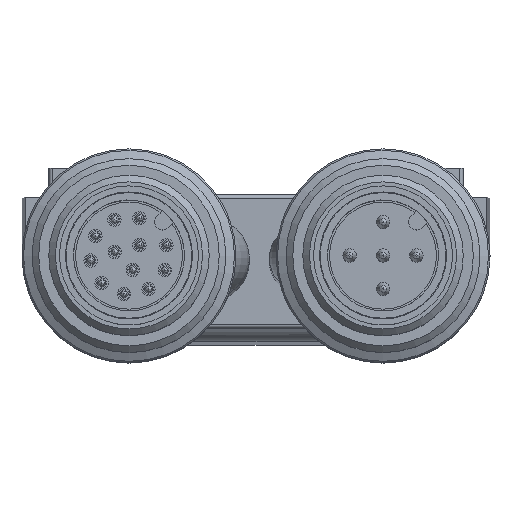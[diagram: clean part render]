
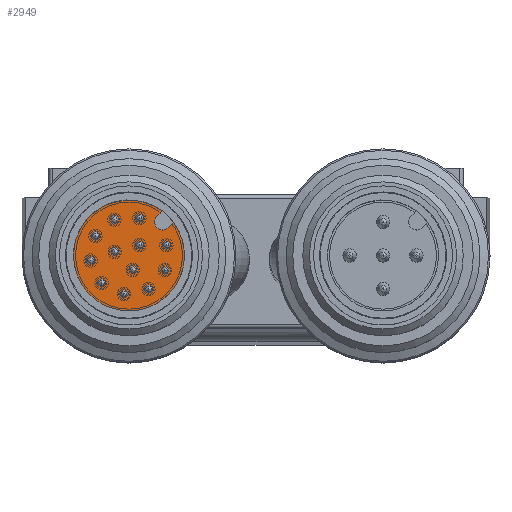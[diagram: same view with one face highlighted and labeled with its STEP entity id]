
A CAD part, top view. The second image highlights one B-rep face of the part: STEP entity #2949.
In plain terms, the highlighted planar face has unit normal (0, 0, 1) as drawn and (0, 0, -1) by its records, which use the part's own axes.
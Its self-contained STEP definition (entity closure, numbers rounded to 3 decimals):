
#2949=ADVANCED_FACE('',(#4052,#4053,#4054,#4055,#4056,#4057,#4058,#4059,
#4060,#4061,#4062,#4063,#4064),#3707,.T.);
#3707=PLANE('',#18240);
#4052=FACE_BOUND('',#5407,.T.);
#4053=FACE_BOUND('',#5408,.T.);
#4054=FACE_BOUND('',#5409,.T.);
#4055=FACE_BOUND('',#5410,.T.);
#4056=FACE_BOUND('',#5411,.T.);
#4057=FACE_BOUND('',#5412,.T.);
#4058=FACE_BOUND('',#5413,.T.);
#4059=FACE_BOUND('',#5414,.T.);
#4060=FACE_BOUND('',#5415,.T.);
#4061=FACE_BOUND('',#5416,.T.);
#4062=FACE_BOUND('',#5417,.T.);
#4063=FACE_BOUND('',#5418,.T.);
#4064=FACE_BOUND('',#5419,.T.);
#5407=EDGE_LOOP('',(#10220));
#5408=EDGE_LOOP('',(#10221));
#5409=EDGE_LOOP('',(#10222));
#5410=EDGE_LOOP('',(#10223));
#5411=EDGE_LOOP('',(#10224));
#5412=EDGE_LOOP('',(#10225));
#5413=EDGE_LOOP('',(#10226));
#5414=EDGE_LOOP('',(#10227));
#5415=EDGE_LOOP('',(#10228));
#5416=EDGE_LOOP('',(#10229));
#5417=EDGE_LOOP('',(#10230));
#5418=EDGE_LOOP('',(#10231));
#5419=EDGE_LOOP('',(#10232,#10233,#10234,#10235));
#6067=CIRCLE('',#18220,0.6);
#6070=CIRCLE('',#18227,0.3);
#6071=CIRCLE('',#18228,0.3);
#6072=CIRCLE('',#18229,0.3);
#6073=CIRCLE('',#18230,0.3);
#6074=CIRCLE('',#18231,0.3);
#6075=CIRCLE('',#18232,0.3);
#6076=CIRCLE('',#18233,0.3);
#6077=CIRCLE('',#18234,0.3);
#6078=CIRCLE('',#18235,0.3);
#6079=CIRCLE('',#18236,0.3);
#6080=CIRCLE('',#18237,0.3);
#6081=CIRCLE('',#18238,0.3);
#6082=CIRCLE('',#18239,4.15);
#10220=ORIENTED_EDGE('',*,*,#14049,.F.);
#10221=ORIENTED_EDGE('',*,*,#14050,.F.);
#10222=ORIENTED_EDGE('',*,*,#14051,.F.);
#10223=ORIENTED_EDGE('',*,*,#14052,.F.);
#10224=ORIENTED_EDGE('',*,*,#14053,.F.);
#10225=ORIENTED_EDGE('',*,*,#14054,.F.);
#10226=ORIENTED_EDGE('',*,*,#14055,.F.);
#10227=ORIENTED_EDGE('',*,*,#14056,.F.);
#10228=ORIENTED_EDGE('',*,*,#14057,.F.);
#10229=ORIENTED_EDGE('',*,*,#14058,.F.);
#10230=ORIENTED_EDGE('',*,*,#14059,.F.);
#10231=ORIENTED_EDGE('',*,*,#14060,.F.);
#10232=ORIENTED_EDGE('',*,*,#14038,.T.);
#10233=ORIENTED_EDGE('',*,*,#14047,.T.);
#10234=ORIENTED_EDGE('',*,*,#14061,.T.);
#10235=ORIENTED_EDGE('',*,*,#14042,.T.);
#11932=VERTEX_POINT('',#28532);
#11933=VERTEX_POINT('',#28533);
#11936=VERTEX_POINT('',#28541);
#11939=VERTEX_POINT('',#28551);
#11940=VERTEX_POINT('',#28555);
#11941=VERTEX_POINT('',#28557);
#11942=VERTEX_POINT('',#28559);
#11943=VERTEX_POINT('',#28561);
#11944=VERTEX_POINT('',#28563);
#11945=VERTEX_POINT('',#28565);
#11946=VERTEX_POINT('',#28567);
#11947=VERTEX_POINT('',#28569);
#11948=VERTEX_POINT('',#28571);
#11949=VERTEX_POINT('',#28573);
#11950=VERTEX_POINT('',#28575);
#11951=VERTEX_POINT('',#28577);
#14038=EDGE_CURVE('',#11932,#11933,#6067,.T.);
#14042=EDGE_CURVE('',#11936,#11932,#15655,.T.);
#14047=EDGE_CURVE('',#11933,#11939,#15659,.T.);
#14049=EDGE_CURVE('',#11940,#11940,#6070,.T.);
#14050=EDGE_CURVE('',#11941,#11941,#6071,.T.);
#14051=EDGE_CURVE('',#11942,#11942,#6072,.T.);
#14052=EDGE_CURVE('',#11943,#11943,#6073,.T.);
#14053=EDGE_CURVE('',#11944,#11944,#6074,.T.);
#14054=EDGE_CURVE('',#11945,#11945,#6075,.T.);
#14055=EDGE_CURVE('',#11946,#11946,#6076,.T.);
#14056=EDGE_CURVE('',#11947,#11947,#6077,.T.);
#14057=EDGE_CURVE('',#11948,#11948,#6078,.T.);
#14058=EDGE_CURVE('',#11949,#11949,#6079,.T.);
#14059=EDGE_CURVE('',#11950,#11950,#6080,.T.);
#14060=EDGE_CURVE('',#11951,#11951,#6081,.T.);
#14061=EDGE_CURVE('',#11939,#11936,#6082,.T.);
#15655=LINE('',#28540,#17055);
#15659=LINE('',#28550,#17059);
#17055=VECTOR('',#22338,1.);
#17059=VECTOR('',#22348,1.);
#18220=AXIS2_PLACEMENT_3D('',#28531,#22330,#22331);
#18227=AXIS2_PLACEMENT_3D('',#28554,#22352,#22353);
#18228=AXIS2_PLACEMENT_3D('',#28556,#22354,#22355);
#18229=AXIS2_PLACEMENT_3D('',#28558,#22356,#22357);
#18230=AXIS2_PLACEMENT_3D('',#28560,#22358,#22359);
#18231=AXIS2_PLACEMENT_3D('',#28562,#22360,#22361);
#18232=AXIS2_PLACEMENT_3D('',#28564,#22362,#22363);
#18233=AXIS2_PLACEMENT_3D('',#28566,#22364,#22365);
#18234=AXIS2_PLACEMENT_3D('',#28568,#22366,#22367);
#18235=AXIS2_PLACEMENT_3D('',#28570,#22368,#22369);
#18236=AXIS2_PLACEMENT_3D('',#28572,#22370,#22371);
#18237=AXIS2_PLACEMENT_3D('',#28574,#22372,#22373);
#18238=AXIS2_PLACEMENT_3D('',#28576,#22374,#22375);
#18239=AXIS2_PLACEMENT_3D('',#28578,#22376,#22377);
#18240=AXIS2_PLACEMENT_3D('',#28579,#22378,#22379);
#22330=DIRECTION('',(0.,0.,1.));
#22331=DIRECTION('',(1.,0.,0.));
#22338=DIRECTION('',(-0.707,0.707,0.));
#22348=DIRECTION('',(0.707,-0.707,0.));
#22352=DIRECTION('',(0.,0.,-1.));
#22353=DIRECTION('',(0.707,-0.707,0.));
#22354=DIRECTION('',(0.,0.,-1.));
#22355=DIRECTION('',(0.707,-0.707,0.));
#22356=DIRECTION('',(0.,0.,-1.));
#22357=DIRECTION('',(0.707,-0.707,0.));
#22358=DIRECTION('',(0.,0.,-1.));
#22359=DIRECTION('',(0.707,-0.707,0.));
#22360=DIRECTION('',(0.,0.,-1.));
#22361=DIRECTION('',(0.707,-0.707,0.));
#22362=DIRECTION('',(0.,0.,-1.));
#22363=DIRECTION('',(0.707,-0.707,0.));
#22364=DIRECTION('',(0.,0.,-1.));
#22365=DIRECTION('',(0.707,-0.707,0.));
#22366=DIRECTION('',(0.,0.,-1.));
#22367=DIRECTION('',(0.707,-0.707,0.));
#22368=DIRECTION('',(0.,0.,-1.));
#22369=DIRECTION('',(0.707,-0.707,0.));
#22370=DIRECTION('',(0.,0.,-1.));
#22371=DIRECTION('',(0.707,-0.707,0.));
#22372=DIRECTION('',(0.,0.,-1.));
#22373=DIRECTION('',(0.707,-0.707,0.));
#22374=DIRECTION('',(0.,0.,-1.));
#22375=DIRECTION('',(0.707,-0.707,0.));
#22376=DIRECTION('',(0.,0.,-1.));
#22377=DIRECTION('',(1.,0.,0.));
#22378=DIRECTION('',(0.,0.,-1.));
#22379=DIRECTION('',(-1.,0.,0.));
#28531=CARTESIAN_POINT('',(42.947,-31.141,8.));
#28532=CARTESIAN_POINT('',(43.371,-30.717,8.));
#28533=CARTESIAN_POINT('',(42.523,-31.565,8.));
#28540=CARTESIAN_POINT('',(43.765,-31.11,8.));
#28541=CARTESIAN_POINT('',(43.765,-31.11,8.));
#28550=CARTESIAN_POINT('',(42.523,-31.565,8.));
#28551=CARTESIAN_POINT('',(42.916,-31.959,8.));
#28554=CARTESIAN_POINT('',(37.932,-30.092,8.));
#28555=CARTESIAN_POINT('',(38.144,-30.304,8.));
#28556=CARTESIAN_POINT('',(39.374,-28.916,8.));
#28557=CARTESIAN_POINT('',(39.587,-29.128,8.));
#28558=CARTESIAN_POINT('',(37.561,-28.259,8.));
#28559=CARTESIAN_POINT('',(37.773,-28.471,8.));
#28560=CARTESIAN_POINT('',(39.345,-31.317,8.));
#28561=CARTESIAN_POINT('',(39.557,-31.53,8.));
#28562=CARTESIAN_POINT('',(41.212,-31.425,8.));
#28563=CARTESIAN_POINT('',(41.424,-31.638,8.));
#28564=CARTESIAN_POINT('',(41.215,-29.409,8.));
#28565=CARTESIAN_POINT('',(41.427,-29.621,8.));
#28566=CARTESIAN_POINT('',(43.231,-29.406,8.));
#28567=CARTESIAN_POINT('',(43.444,-29.618,8.));
#28568=CARTESIAN_POINT('',(40.722,-27.568,8.));
#28569=CARTESIAN_POINT('',(40.934,-27.781,8.));
#28570=CARTESIAN_POINT('',(43.123,-27.539,8.));
#28571=CARTESIAN_POINT('',(43.336,-27.751,8.));
#28572=CARTESIAN_POINT('',(38.386,-26.58,8.));
#28573=CARTESIAN_POINT('',(38.598,-26.792,8.));
#28574=CARTESIAN_POINT('',(40.065,-25.755,8.));
#28575=CARTESIAN_POINT('',(40.277,-25.967,8.));
#28576=CARTESIAN_POINT('',(41.898,-26.126,8.));
#28577=CARTESIAN_POINT('',(42.11,-26.338,8.));
#28578=CARTESIAN_POINT('',(40.437,-28.631,8.));
#28579=CARTESIAN_POINT('',(40.437,-28.631,8.));
